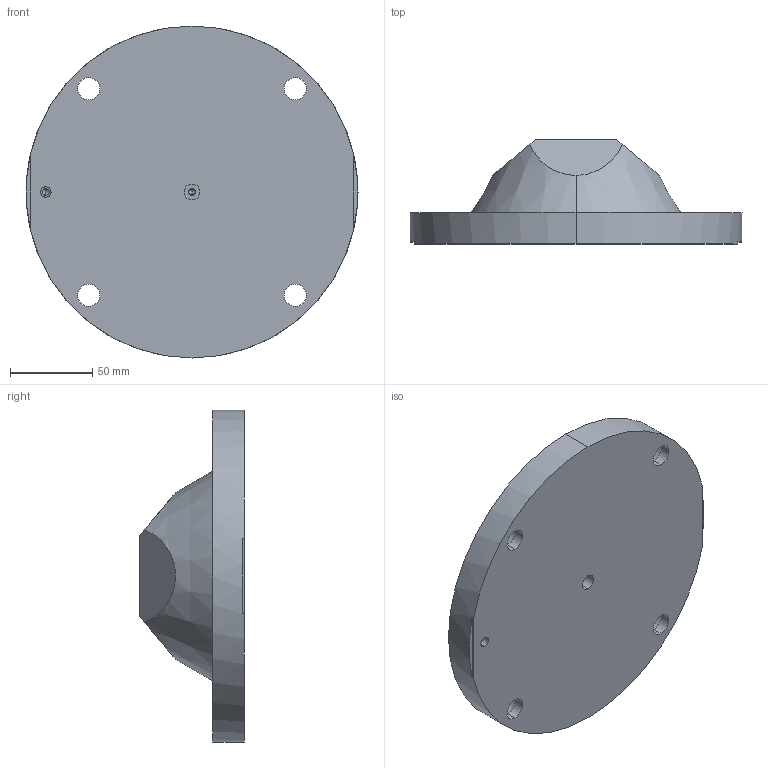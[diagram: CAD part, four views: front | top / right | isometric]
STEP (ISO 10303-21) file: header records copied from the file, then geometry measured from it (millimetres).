
FILE_DESCRIPTION (( 'STEP AP214' ), '1' );
FILE_NAME ('P2547D221M 2X2 DOVETAIL FIXTURE MOUNTING PEDESTAL.STEP', '2015-09-29T17:19:50', ( '' ), ( '' ), 'SwSTEP 2.0', 'SolidWorks 2015', '' );
FILE_SCHEMA (( 'AUTOMOTIVE_DESIGN' ));
Length unit declared in the file: inch
Products named in the file (1): P2547D221M 2X2 DOVETAIL FIXTURE MOUNTING PEDESTAL
Bounding box: 201.93 x 63.5 x 201.93 mm (x, y, z)
Volume: 934749.9 mm3; surface area: 89011.1 mm2
Topology: 1 solids, 1 shells, 69 faces, 160 edges, 100 vertices
Faces by surface type: cylinder 38, plane 21, cone 10
Entity records: 2018 total; most frequent: DIRECTION 368, CARTESIAN_POINT 340, ORIENTED_EDGE 304, EDGE_CURVE 152, AXIS2_PLACEMENT_3D 152, VERTEX_POINT 100, EDGE_LOOP 92, CIRCLE 82
